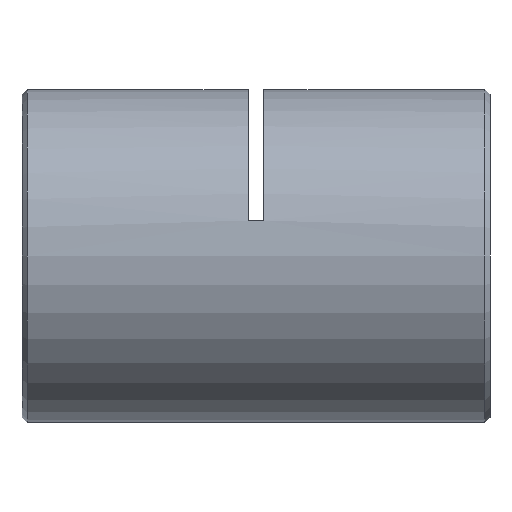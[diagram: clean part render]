
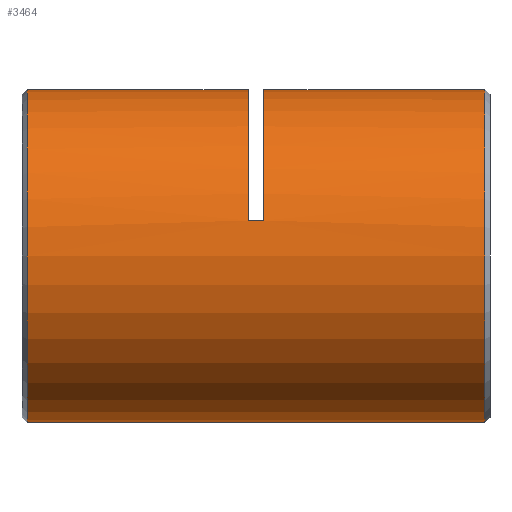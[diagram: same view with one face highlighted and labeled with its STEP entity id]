
A CAD part, left-side view. The second image highlights one B-rep face of the part: STEP entity #3464.
In plain terms, the highlighted cylindrical face has radius 16 mm (diameter 32 mm), a partial arc.
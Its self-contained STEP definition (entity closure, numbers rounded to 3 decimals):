
#6 = DIRECTION ( 'NONE',  ( 0., 0., 1. ) ) ;
#71 = DIRECTION ( 'NONE',  ( 0., 0., -1. ) ) ;
#192 = ORIENTED_EDGE ( 'NONE', *, *, #3387, .F. ) ;
#260 = VERTEX_POINT ( 'NONE', #5667 ) ;
#536 = DIRECTION ( 'NONE',  ( 0., 1., 0. ) ) ;
#625 = CARTESIAN_POINT ( 'NONE',  ( 0., 0., 16. ) ) ;
#692 = DIRECTION ( 'NONE',  ( 0., 1., 0. ) ) ;
#695 = VERTEX_POINT ( 'NONE', #4255 ) ;
#720 = CARTESIAN_POINT ( 'NONE',  ( 0., 0., 16. ) ) ;
#839 = EDGE_CURVE ( 'NONE', #5112, #2054, #1978, .T. ) ;
#875 = DIRECTION ( 'NONE',  ( 0., 1., 0. ) ) ;
#877 = EDGE_CURVE ( 'NONE', #3055, #695, #5365, .T. ) ;
#1084 = LINE ( 'NONE', #4932, #3087 ) ;
#1148 = CARTESIAN_POINT ( 'NONE',  ( 0., 22., 16. ) ) ;
#1214 = CARTESIAN_POINT ( 'NONE',  ( 0., 0., 0. ) ) ;
#1225 = CARTESIAN_POINT ( 'NONE',  ( 0., 0.75, 16. ) ) ;
#1311 = VERTEX_POINT ( 'NONE', #3216 ) ;
#1324 = ORIENTED_EDGE ( 'NONE', *, *, #5182, .T. ) ;
#1494 = VERTEX_POINT ( 'NONE', #1148 ) ;
#1526 = ORIENTED_EDGE ( 'NONE', *, *, #1896, .T. ) ;
#1595 = ORIENTED_EDGE ( 'NONE', *, *, #4933, .T. ) ;
#1629 = DIRECTION ( 'NONE',  ( 0., 1., 0. ) ) ;
#1729 = CARTESIAN_POINT ( 'NONE',  ( 0., 22., 0. ) ) ;
#1735 = AXIS2_PLACEMENT_3D ( 'NONE', #1214, #3164, #2690 ) ;
#1867 = VECTOR ( 'NONE', #6159, 1000. ) ;
#1896 = EDGE_CURVE ( 'NONE', #1311, #260, #4039, .T. ) ;
#1945 = CARTESIAN_POINT ( 'NONE',  ( 0., 44.75, 0. ) ) ;
#1978 = CIRCLE ( 'NONE', #2897, 16. ) ;
#2054 = VERTEX_POINT ( 'NONE', #1225 ) ;
#2341 = EDGE_CURVE ( 'NONE', #2054, #1494, #3593, .T. ) ;
#2349 = CIRCLE ( 'NONE', #6058, 16. ) ;
#2381 = ORIENTED_EDGE ( 'NONE', *, *, #5469, .F. ) ;
#2467 = DIRECTION ( 'NONE',  ( 0., 1., 0. ) ) ;
#2480 = DIRECTION ( 'NONE',  ( 0., 0., 1. ) ) ;
#2690 = DIRECTION ( 'NONE',  ( 0., 0., 1. ) ) ;
#2719 = ORIENTED_EDGE ( 'NONE', *, *, #839, .T. ) ;
#2794 = AXIS2_PLACEMENT_3D ( 'NONE', #1945, #4852, #71 ) ;
#2897 = AXIS2_PLACEMENT_3D ( 'NONE', #6362, #2467, #6 ) ;
#2900 = CARTESIAN_POINT ( 'NONE',  ( 0., 44.75, 16. ) ) ;
#3055 = VERTEX_POINT ( 'NONE', #2900 ) ;
#3087 = VECTOR ( 'NONE', #536, 1000. ) ;
#3164 = DIRECTION ( 'NONE',  ( 0., 1., 0. ) ) ;
#3171 = ORIENTED_EDGE ( 'NONE', *, *, #2341, .T. ) ;
#3180 = CARTESIAN_POINT ( 'NONE',  ( -15.632, 22.75, 3.413 ) ) ;
#3216 = CARTESIAN_POINT ( 'NONE',  ( -15.632, 23.5, 3.413 ) ) ;
#3337 = VECTOR ( 'NONE', #875, 1000. ) ;
#3387 = EDGE_CURVE ( 'NONE', #5815, #1494, #2349, .T. ) ;
#3464 = ADVANCED_FACE ( 'NONE', ( #5654 ), #6117, .T. ) ;
#3509 = DIRECTION ( 'NONE',  ( 0., 1., 0. ) ) ;
#3593 = LINE ( 'NONE', #625, #4477 ) ;
#4039 = CIRCLE ( 'NONE', #4854, 16. ) ;
#4220 = EDGE_LOOP ( 'NONE', ( #2381, #2719, #3171, #192, #1324, #1526, #1595, #5430 ) ) ;
#4255 = CARTESIAN_POINT ( 'NONE',  ( 0., 44.75, -16. ) ) ;
#4477 = VECTOR ( 'NONE', #692, 1000. ) ;
#4565 = LINE ( 'NONE', #720, #3337 ) ;
#4622 = LINE ( 'NONE', #3180, #1867 ) ;
#4844 = CARTESIAN_POINT ( 'NONE',  ( 0., 0.75, -16. ) ) ;
#4852 = DIRECTION ( 'NONE',  ( 0., -1., 0. ) ) ;
#4854 = AXIS2_PLACEMENT_3D ( 'NONE', #6342, #3509, #2480 ) ;
#4932 = CARTESIAN_POINT ( 'NONE',  ( 0., 0., -16. ) ) ;
#4933 = EDGE_CURVE ( 'NONE', #260, #3055, #4565, .T. ) ;
#4955 = CARTESIAN_POINT ( 'NONE',  ( -15.632, 22., 3.413 ) ) ;
#5112 = VERTEX_POINT ( 'NONE', #4844 ) ;
#5182 = EDGE_CURVE ( 'NONE', #5815, #1311, #4622, .T. ) ;
#5365 = CIRCLE ( 'NONE', #2794, 16. ) ;
#5430 = ORIENTED_EDGE ( 'NONE', *, *, #877, .T. ) ;
#5469 = EDGE_CURVE ( 'NONE', #5112, #695, #1084, .T. ) ;
#5553 = DIRECTION ( 'NONE',  ( 0., 0., 1. ) ) ;
#5654 = FACE_OUTER_BOUND ( 'NONE', #4220, .T. ) ;
#5667 = CARTESIAN_POINT ( 'NONE',  ( 0., 23.5, 16. ) ) ;
#5815 = VERTEX_POINT ( 'NONE', #4955 ) ;
#6058 = AXIS2_PLACEMENT_3D ( 'NONE', #1729, #1629, #5553 ) ;
#6117 = CYLINDRICAL_SURFACE ( 'NONE', #1735, 16. ) ;
#6159 = DIRECTION ( 'NONE',  ( 0., 1., 0. ) ) ;
#6342 = CARTESIAN_POINT ( 'NONE',  ( 0., 23.5, 0. ) ) ;
#6362 = CARTESIAN_POINT ( 'NONE',  ( 0., 0.75, 0. ) ) ;
